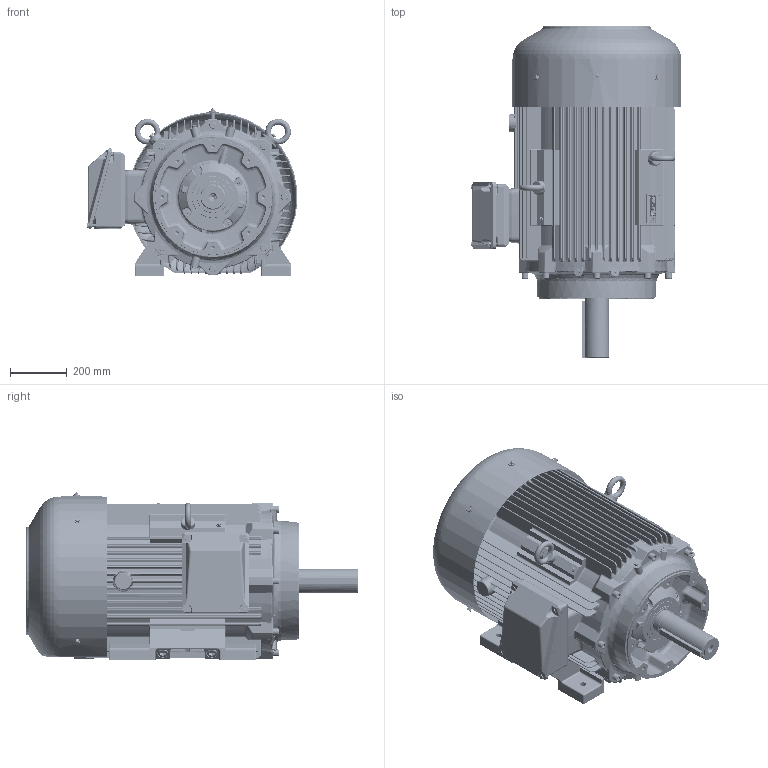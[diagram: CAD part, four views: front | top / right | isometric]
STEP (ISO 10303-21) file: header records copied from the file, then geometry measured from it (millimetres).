
FILE_DESCRIPTION(/* description */ ('Unknown','CAx-IF Rec.Pracs.---Representation and Presentation of Product Manufacturing Information (PMI)---4.0---2014-10-13','CAx-IF Rec.Pracs.---3D Tessellated Geometry---0.4---2014-09-14','2;1'),/* implementation_level */ '2;1');
FILE_NAME(/* name */ 'Silnik_SIE440_TCL4_6',/* time_stamp */ '2024-07-08T09:32:56+02:00',/* author */ ('Unknown'),/* organization */ ('Unknown'),/* preprocessor_version */ 'ST-DEVELOPER v16.7',/* originating_system */ 'DEX',/* authorisation */ $);
FILE_SCHEMA (('AP203_CONFIGURATION_CONTROLLED_3D_DESIGN_OF_MECHANICAL_PARTS_AND_ASSEMBLIES_MIM_LF { 1 0 10303 203 3 1 4 }','AP242_MANAGED_MODEL_BASED_3D_ENGINEERING_MIM_LF { 1 0 10303 442 1 1 4 }','AP242_MANAGED_MODEL_BASED_3D_ENGINEERING_MIM_LF { 1 0 10303 442 20130219 1 4 }'));
Length unit declared in the file: millimetre
Products named in the file (1): Silnik_SIE440_TCL4_6
Bounding box: 742.2 x 1167.95 x 594.47 mm (x, y, z)
Volume: 119067847.3 mm3; surface area: 10140234.3 mm2
Topology: 1 solids, 65 shells, 13151 faces, 33782 edges, 20609 vertices
Faces by surface type: plane 6201, cylinder 3111, bspline 1915, torus 1037, cone 522, sphere 365
Full cylindrical faces by diameter (mm): 1.6 x2, 2.459 x2, 2.5 x4, 3 x13, 3.4 x4, 3.5 x4, 4.917 x2, 5 x9, 6 x2, 6.2 x14, 6.35 x3, 6.4 x2, 6.466 x8, 6.647 x16, 8 x26, 8.376 x11, 8.4 x1, 8.8 x1, 8.917 x4, 9 x16, 9.853 x1, 10 x18, 10.106 x8, 10.5 x5, 11.63 x4, 12 x12, 13 x8, 13.376 x8, 13.546 x8, 13.835 x9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
Entity records: 550503 total; most frequent: CARTESIAN_POINT 154089, ORIENTED_EDGE 64334, DIRECTION 59080, EDGE_CURVE 32167, AXIS2_PLACEMENT_3D 20506, VERTEX_POINT 20158, LINE 18068, VECTOR 18068
